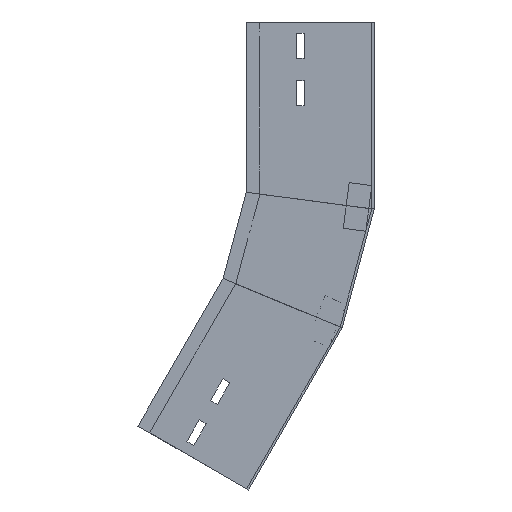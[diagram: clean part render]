
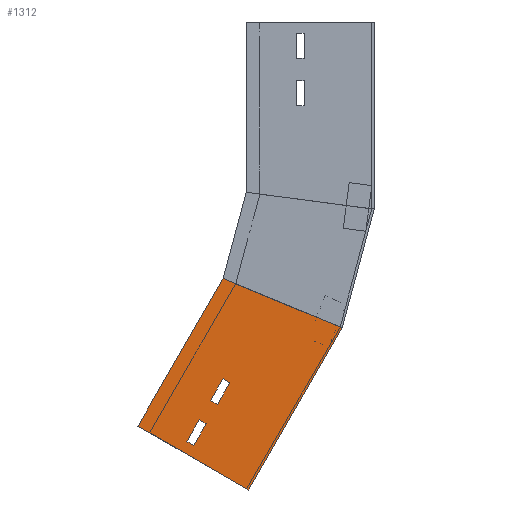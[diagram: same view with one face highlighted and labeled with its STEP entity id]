
A CAD part, left-side view. The second image highlights one B-rep face of the part: STEP entity #1312.
In plain terms, the highlighted planar face has unit normal (-1, 0, 0) as drawn and (1, 0, 0) by its records, which use the part's own axes.
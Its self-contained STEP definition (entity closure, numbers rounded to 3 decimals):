
#11 = CARTESIAN_POINT ( 'NONE',  ( 0., 68.5, -31.835 ) ) ;
#72 = LINE ( 'NONE', #1134, #238 ) ;
#77 = ORIENTED_EDGE ( 'NONE', *, *, #1064, .F. ) ;
#81 = ORIENTED_EDGE ( 'NONE', *, *, #650, .T. ) ;
#91 = VERTEX_POINT ( 'NONE', #1130 ) ;
#94 = DIRECTION ( 'NONE',  ( 0., 1., 0. ) ) ;
#132 = AXIS2_PLACEMENT_3D ( 'NONE', #427, #878, #1211 ) ;
#166 = CARTESIAN_POINT ( 'NONE',  ( 0., 68.5, -31.835 ) ) ;
#193 = EDGE_CURVE ( 'NONE', #887, #514, #1266, .T. ) ;
#196 = VERTEX_POINT ( 'NONE', #948 ) ;
#198 = CARTESIAN_POINT ( 'NONE',  ( 0., 112.5, -149.789 ) ) ;
#229 = LINE ( 'NONE', #393, #1018 ) ;
#232 = ORIENTED_EDGE ( 'NONE', *, *, #623, .F. ) ;
#238 = VECTOR ( 'NONE', #561, 1000. ) ;
#252 = VECTOR ( 'NONE', #703, 1000. ) ;
#286 = VECTOR ( 'NONE', #385, 1000. ) ;
#289 = FACE_BOUND ( 'NONE', #736, .T. ) ;
#302 = CARTESIAN_POINT ( 'NONE',  ( 0., 112.5, 0. ) ) ;
#305 = VECTOR ( 'NONE', #1152, 1000. ) ;
#342 = LINE ( 'NONE', #1374, #305 ) ;
#347 = EDGE_CURVE ( 'NONE', #1060, #652, #1412, .T. ) ;
#360 = EDGE_CURVE ( 'NONE', #1187, #935, #511, .T. ) ;
#363 = LINE ( 'NONE', #1062, #959 ) ;
#385 = DIRECTION ( 'NONE',  ( 0., 1., 0. ) ) ;
#393 = CARTESIAN_POINT ( 'NONE',  ( 0., 21.301, -161.796 ) ) ;
#418 = VECTOR ( 'NONE', #630, 1000. ) ;
#427 = CARTESIAN_POINT ( 'NONE',  ( 0., 0., 0. ) ) ;
#467 = ORIENTED_EDGE ( 'NONE', *, *, #1101, .T. ) ;
#496 = CARTESIAN_POINT ( 'NONE',  ( 0., 0., -164.6 ) ) ;
#511 = LINE ( 'NONE', #1397, #1056 ) ;
#514 = VERTEX_POINT ( 'NONE', #589 ) ;
#554 = ORIENTED_EDGE ( 'NONE', *, *, #347, .T. ) ;
#561 = DIRECTION ( 'NONE',  ( 0., 0., 1. ) ) ;
#576 = CARTESIAN_POINT ( 'NONE',  ( 0., 61.5, -51.505 ) ) ;
#585 = CARTESIAN_POINT ( 'NONE',  ( 0., 61.5, -51.505 ) ) ;
#589 = CARTESIAN_POINT ( 'NONE',  ( 0., 61.5, -73.505 ) ) ;
#592 = VECTOR ( 'NONE', #94, 1000. ) ;
#597 = ORIENTED_EDGE ( 'NONE', *, *, #951, .T. ) ;
#609 = EDGE_LOOP ( 'NONE', ( #81, #816, #793, #1141 ) ) ;
#611 = LINE ( 'NONE', #1367, #286 ) ;
#623 = EDGE_CURVE ( 'NONE', #1060, #1187, #800, .T. ) ;
#630 = DIRECTION ( 'NONE',  ( 0., 0., -1. ) ) ;
#632 = VERTEX_POINT ( 'NONE', #576 ) ;
#647 = LINE ( 'NONE', #166, #1377 ) ;
#650 = EDGE_CURVE ( 'NONE', #632, #196, #611, .T. ) ;
#652 = VERTEX_POINT ( 'NONE', #496 ) ;
#659 = VERTEX_POINT ( 'NONE', #11 ) ;
#679 = CARTESIAN_POINT ( 'NONE',  ( 0., 68.5, -9.835 ) ) ;
#686 = EDGE_LOOP ( 'NONE', ( #778, #232, #554, #77 ) ) ;
#703 = DIRECTION ( 'NONE',  ( 0., 0., 1. ) ) ;
#727 = VERTEX_POINT ( 'NONE', #828 ) ;
#736 = EDGE_LOOP ( 'NONE', ( #1207, #1373, #467, #597 ) ) ;
#754 = FACE_BOUND ( 'NONE', #609, .T. ) ;
#778 = ORIENTED_EDGE ( 'NONE', *, *, #360, .F. ) ;
#793 = ORIENTED_EDGE ( 'NONE', *, *, #193, .T. ) ;
#800 = LINE ( 'NONE', #1133, #592 ) ;
#801 = DIRECTION ( 'NONE',  ( 0., 0., -1. ) ) ;
#816 = ORIENTED_EDGE ( 'NONE', *, *, #1414, .T. ) ;
#828 = CARTESIAN_POINT ( 'NONE',  ( 0., 61.5, -9.835 ) ) ;
#835 = CARTESIAN_POINT ( 'NONE',  ( 0., 68.5, -73.505 ) ) ;
#860 = DIRECTION ( 'NONE',  ( 0., 0., -1. ) ) ;
#878 = DIRECTION ( 'NONE',  ( -1., 0., 0. ) ) ;
#887 = VERTEX_POINT ( 'NONE', #983 ) ;
#910 = VERTEX_POINT ( 'NONE', #1441 ) ;
#935 = VERTEX_POINT ( 'NONE', #198 ) ;
#948 = CARTESIAN_POINT ( 'NONE',  ( 0., 68.5, -51.505 ) ) ;
#951 = EDGE_CURVE ( 'NONE', #910, #727, #72, .T. ) ;
#959 = VECTOR ( 'NONE', #1487, 1000. ) ;
#978 = CARTESIAN_POINT ( 'NONE',  ( 0., 0., 0. ) ) ;
#983 = CARTESIAN_POINT ( 'NONE',  ( 0., 68.5, -73.505 ) ) ;
#989 = PLANE ( 'NONE',  #132 ) ;
#992 = EDGE_CURVE ( 'NONE', #91, #659, #1106, .T. ) ;
#1006 = VECTOR ( 'NONE', #1276, 1000. ) ;
#1018 = VECTOR ( 'NONE', #1267, 1000. ) ;
#1056 = VECTOR ( 'NONE', #860, 1000. ) ;
#1060 = VERTEX_POINT ( 'NONE', #1370 ) ;
#1062 = CARTESIAN_POINT ( 'NONE',  ( 0., 68.5, -51.505 ) ) ;
#1064 = EDGE_CURVE ( 'NONE', #935, #652, #229, .T. ) ;
#1080 = DIRECTION ( 'NONE',  ( 0., -1., 0. ) ) ;
#1101 = EDGE_CURVE ( 'NONE', #659, #910, #647, .T. ) ;
#1106 = LINE ( 'NONE', #679, #1381 ) ;
#1130 = CARTESIAN_POINT ( 'NONE',  ( 0., 68.5, -9.835 ) ) ;
#1133 = CARTESIAN_POINT ( 'NONE',  ( 0., 0., 0. ) ) ;
#1134 = CARTESIAN_POINT ( 'NONE',  ( 0., 61.5, -9.835 ) ) ;
#1141 = ORIENTED_EDGE ( 'NONE', *, *, #1459, .T. ) ;
#1152 = DIRECTION ( 'NONE',  ( 0., 1., 0. ) ) ;
#1187 = VERTEX_POINT ( 'NONE', #302 ) ;
#1207 = ORIENTED_EDGE ( 'NONE', *, *, #1410, .T. ) ;
#1211 = DIRECTION ( 'NONE',  ( 0., 0., 1. ) ) ;
#1266 = LINE ( 'NONE', #835, #1006 ) ;
#1267 = DIRECTION ( 'NONE',  ( 0., -0.991, -0.131 ) ) ;
#1276 = DIRECTION ( 'NONE',  ( 0., -1., 0. ) ) ;
#1312 = ADVANCED_FACE ( 'NONE', ( #754, #1432, #289 ), #989, .F. ) ;
#1367 = CARTESIAN_POINT ( 'NONE',  ( 0., 68.5, -51.505 ) ) ;
#1370 = CARTESIAN_POINT ( 'NONE',  ( 0., 0., 0. ) ) ;
#1373 = ORIENTED_EDGE ( 'NONE', *, *, #992, .T. ) ;
#1374 = CARTESIAN_POINT ( 'NONE',  ( 0., 68.5, -9.835 ) ) ;
#1377 = VECTOR ( 'NONE', #1080, 1000. ) ;
#1381 = VECTOR ( 'NONE', #801, 1000. ) ;
#1383 = LINE ( 'NONE', #585, #252 ) ;
#1397 = CARTESIAN_POINT ( 'NONE',  ( 0., 112.5, 0. ) ) ;
#1410 = EDGE_CURVE ( 'NONE', #727, #91, #342, .T. ) ;
#1412 = LINE ( 'NONE', #978, #418 ) ;
#1414 = EDGE_CURVE ( 'NONE', #196, #887, #363, .T. ) ;
#1432 = FACE_OUTER_BOUND ( 'NONE', #686, .T. ) ;
#1441 = CARTESIAN_POINT ( 'NONE',  ( 0., 61.5, -31.835 ) ) ;
#1459 = EDGE_CURVE ( 'NONE', #514, #632, #1383, .T. ) ;
#1487 = DIRECTION ( 'NONE',  ( 0., 0., -1. ) ) ;
